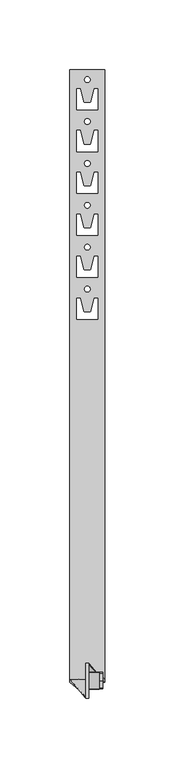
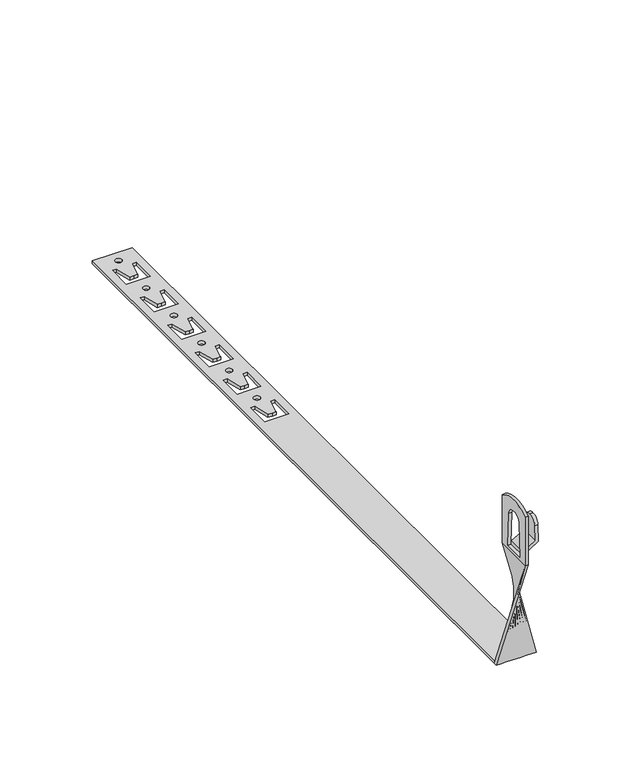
"""IFC4 building model written with IfcOpenShell, lengths in millimetres: proxy geometry, КНС_ДержательСкрученныйПодЧерепицу_DKC : ND2208CU_Медь_450 мм."""

import ifcopenshell
import ifcopenshell.guid

model = None  # the IFC model being written
_history = None  # IfcOwnerHistory: only IFC2X3 demands one
_inside = {}  # id of a spatial element -> (the spatial element, [elements in it])
_under = {}  # id of a project, library or spatial element -> (it, [spatial elements below it])
_declared = {}  # id of a project -> (the project, [libraries it declares])
_typed = {}  # id of a type object -> (the type object, [elements of that type])
_made_of = {}  # id of a material, layer set ... -> (it, [elements and type objects made of it])


def new_model(schema):
    """Start an empty IFC model of exactly this schema.

    Asked for "IFC4X3", IfcOpenShell would pick the latest addendum, in which some entities
    have other attributes; the version numbers below select the first issue.
    IFC2X3 requires an IfcOwnerHistory on every rooted entity: one is made here for all.
    """
    global model, _history
    if schema == "IFC4X3":
        model = ifcopenshell.file(schema_version=(4, 3, 0, 0))
    else:
        model = ifcopenshell.file(schema=schema)
    _inside.clear()
    _under.clear()
    _declared.clear()
    _typed.clear()
    _made_of.clear()
    _history = None
    if model.schema == "IFC2X3":
        org = make("IfcOrganization", Name="unknown")
        user = make(
            "IfcPersonAndOrganization",
            ThePerson=make("IfcPerson", FamilyName="unknown"),
            TheOrganization=org,
        )
        app = make(
            "IfcApplication",
            ApplicationDeveloper=org,
            Version="unknown",
            ApplicationFullName="unknown",
            ApplicationIdentifier="unknown",
        )
        _history = make(
            "IfcOwnerHistory",
            OwningUser=user,
            OwningApplication=app,
            ChangeAction="ADDED",
            CreationDate=0,
        )
    return model


def make(cls, **values):
    """One entity of the class cls with the attributes given. An attribute that is None is left unset."""
    return model.create_entity(
        cls, **{name: value for name, value in values.items() if value is not None}
    )


def rooted(cls, **values):
    """An entity with a GlobalId (a new one), such as an element, a storey or a relation."""
    return make(cls, GlobalId=ifcopenshell.guid.new(), OwnerHistory=_history, **values)


def si_unit(unit_type, name, prefix=None):
    """IfcSIUnit, for example si_unit("LENGTHUNIT", "METRE", prefix="MILLI")."""
    return make("IfcSIUnit", UnitType=unit_type, Prefix=prefix, Name=name)


def assignment(units):
    """IfcUnitAssignment: the units of a project."""
    return None if units is None else make("IfcUnitAssignment", Units=units)


def point(xyz):
    """IfcCartesianPoint."""
    return None if xyz is None else make("IfcCartesianPoint", Coordinates=xyz)


def direction(xyz):
    """IfcDirection."""
    return None if xyz is None else make("IfcDirection", DirectionRatios=xyz)


def frame(location, z_axis=None, x_axis=None):
    """IfcAxis2Placement3D, a coordinate frame: its origin and axes. An axis left out is left unset."""
    return make(
        "IfcAxis2Placement3D",
        Location=point(location),
        Axis=direction(z_axis),
        RefDirection=direction(x_axis),
    )


def frame_2d(location, x_axis=None):
    """IfcAxis2Placement2D, a coordinate frame in the plane: its origin and x axis."""
    return make(
        "IfcAxis2Placement2D", Location=point(location), RefDirection=direction(x_axis)
    )


def origin():
    """The frame at (0, 0, 0) with its axes left unset."""
    return frame((0.0, 0.0, 0.0))


def origin_with_axes():
    """The frame at (0, 0, 0) with the z axis (0, 0, 1) and the x axis (1, 0, 0) written out."""
    return frame((0.0, 0.0, 0.0), z_axis=(0.0, 0.0, 1.0), x_axis=(1.0, 0.0, 0.0))


def place(relative_to, where):
    """IfcLocalPlacement: puts the frame where relative to a parent placement (None: the world)."""
    return make(
        "IfcLocalPlacement", PlacementRelTo=relative_to, RelativePlacement=where
    )


def context(
    kind, dimensions, precision=None, world=None, true_north=None, identifier=None
):
    """IfcGeometricRepresentationContext, for example the 3D "Model" context."""
    return make(
        "IfcGeometricRepresentationContext",
        ContextIdentifier=identifier,
        ContextType=kind,
        CoordinateSpaceDimension=dimensions,
        Precision=precision,
        WorldCoordinateSystem=world,
        TrueNorth=true_north,
    )


def project(units=None, contexts=None):
    """IfcProject with its units and contexts."""
    return rooted(
        "IfcProject",
        Name="project",
        RepresentationContexts=contexts,
        UnitsInContext=assignment(units),
    )


def spatial(cls, under=None, at=None, **own):
    """A site, building, storey or space (cls), placed at a placement, below another one or the project."""
    s = rooted(cls, ObjectPlacement=at, **own)
    if under is not None:
        _under.setdefault(under.id(), (under, []))[1].append(s)
    return s


def polyline(points):
    """IfcPolyline through the points."""
    return make("IfcPolyline", Points=[point(p) for p in points])


def circle_curve(where, radius):
    """IfcCircle in the frame where."""
    return make("IfcCircle", Position=where, Radius=radius)


def trimmed(basis, trim1, trim2, sense, master):
    """IfcTrimmedCurve: the piece of a basis curve between two trims."""
    return make(
        "IfcTrimmedCurve",
        BasisCurve=basis,
        Trim1=trim1,
        Trim2=trim2,
        SenseAgreement=sense,
        MasterRepresentation=master,
    )


def segment(curve, same_sense, transition):
    """IfcCompositeCurveSegment."""
    return make(
        "IfcCompositeCurveSegment",
        Transition=transition,
        SameSense=same_sense,
        ParentCurve=curve,
    )


def composite_curve(segments, self_intersect=None):
    """IfcCompositeCurve: segments joined end to end."""
    return make("IfcCompositeCurve", Segments=segments, SelfIntersect=self_intersect)


def outline(outer, holes=None, kind="AREA"):
    """IfcArbitraryClosedProfileDef: a profile drawn as a closed curve; with holes, ...WithVoids."""
    if holes is None:
        return make("IfcArbitraryClosedProfileDef", ProfileType=kind, OuterCurve=outer)
    return make(
        "IfcArbitraryProfileDefWithVoids",
        ProfileType=kind,
        OuterCurve=outer,
        InnerCurves=holes,
    )


def extrude(swept, where, along, depth):
    """IfcExtrudedAreaSolid: the profile swept, set in the frame where, extruded along a direction by depth."""
    return make(
        "IfcExtrudedAreaSolid",
        SweptArea=swept,
        Position=where,
        ExtrudedDirection=direction(along),
        Depth=depth,
    )


def shape(context_of_items, identifier, shape_type, items):
    """IfcShapeRepresentation: the items that make up one representation, for example the "Body"."""
    return make(
        "IfcShapeRepresentation",
        ContextOfItems=context_of_items,
        RepresentationIdentifier=identifier,
        RepresentationType=shape_type,
        Items=items,
    )


def source(mapping_origin, context_of_items, identifier, shape_type, items):
    """IfcRepresentationMap: a shape defined once, which mapped items show again and again."""
    return make(
        "IfcRepresentationMap",
        MappingOrigin=mapping_origin,
        MappedRepresentation=shape(context_of_items, identifier, shape_type, items),
    )


def transform(
    local_origin,
    x_axis=None,
    y_axis=None,
    z_axis=None,
    scale=None,
    scale2=None,
    scale3=None,
    uniform=True,
):
    """IfcCartesianTransformationOperator3D, or its non-uniform kind. x_axis, y_axis, z_axis: its Axis1, 2, 3."""
    if uniform:
        return make(
            "IfcCartesianTransformationOperator3D",
            Axis1=direction(x_axis),
            Axis2=direction(y_axis),
            LocalOrigin=point(local_origin),
            Scale=scale,
            Axis3=direction(z_axis),
        )
    return make(
        "IfcCartesianTransformationOperator3DnonUniform",
        Axis1=direction(x_axis),
        Axis2=direction(y_axis),
        LocalOrigin=point(local_origin),
        Scale=scale,
        Axis3=direction(z_axis),
        Scale2=scale2,
        Scale3=scale3,
    )


def mapped(mapping_source, mapping_target):
    """IfcMappedItem: shows the shape of a source again, moved by a transform."""
    return make(
        "IfcMappedItem", MappingSource=mapping_source, MappingTarget=mapping_target
    )


def made_of(thing, what):
    """Note that an element or type object is made of a material, layer set ...; save() writes the relation."""
    if what is not None:
        _made_of.setdefault(what.id(), (what, []))[1].append(thing)
    return thing


def element(
    cls,
    number,
    at=None,
    inside=None,
    cuts=None,
    type_object=None,
    material=None,
    context=None,
    identifier="Body",
    shape_type=None,
    held_by="IfcProductDefinitionShape",
    body=None,
    shapes=None,
    **own,
):
    """One element of the class cls, such as IfcWall. Its Tag is "e" and its number.

    at: its placement. inside: the storey or other place that contains it. cuts: it is an
    opening in that element (IfcRelVoidsElement). A single representation is given by context,
    identifier, shape_type and body (its items); several are given by shapes. held_by: the class
    of the entity that holds the representations. save() writes the other relations.
    """
    e = rooted(cls, Tag="e%d" % number, ObjectPlacement=at, **own)
    if body is not None:
        shapes = [shape(context, identifier, shape_type, body)]
    if shapes is not None:
        e.Representation = make(held_by, Representations=shapes)
    if inside is not None:
        _inside.setdefault(inside.id(), (inside, []))[1].append(e)
    if cuts is not None:
        rooted(
            "IfcRelVoidsElement", RelatingBuildingElement=cuts, RelatedOpeningElement=e
        )
    if type_object is not None:
        _typed.setdefault(type_object.id(), (type_object, []))[1].append(e)
    return made_of(e, material)


def aggregate(whole, parts):
    """IfcRelAggregates: a whole, such as a stair, and the parts it consists of."""
    return rooted("IfcRelAggregates", RelatingObject=whole, RelatedObjects=parts)


def save(model, path):
    """Write the relations noted so far, then the file.

    IfcRelAggregates (storeys below a building ...), IfcRelContainedInSpatialStructure (elements
    in a storey), IfcRelDefinesByType, IfcRelAssociatesMaterial and IfcRelDeclares: one each for
    every whole, place, type object, material and project.
    """
    for whole, parts in _under.values():
        aggregate(whole, parts)
    for where, things in _inside.values():
        rooted(
            "IfcRelContainedInSpatialStructure",
            RelatedElements=things,
            RelatingStructure=where,
        )
    for kind, things in _typed.values():
        rooted("IfcRelDefinesByType", RelatedObjects=things, RelatingType=kind)
    for what, things in _made_of.values():
        rooted("IfcRelAssociatesMaterial", RelatedObjects=things, RelatingMaterial=what)
    for by, libraries in _declared.values():
        rooted("IfcRelDeclares", RelatingContext=by, RelatedDefinitions=libraries)
    model.write(path)


def plane_surface(at):
    """IfcPlane: the flat surface through the origin of the frame at, square to its z axis."""
    return make("IfcPlane", Position=at)


def cylinder_surface(at, radius):
    """IfcCylindricalSurface: all points at the distance radius from the z axis of the frame at."""
    return make("IfcCylindricalSurface", Position=at, Radius=radius)


def revolved_surface(curve, axis_point, axis_direction):
    """IfcSurfaceOfRevolution: the curve turned about the line through axis_point along axis_direction."""
    return make(
        "IfcSurfaceOfRevolution",
        SweptCurve=make("IfcArbitraryOpenProfileDef", ProfileType="CURVE", Curve=curve),
        AxisPosition=make("IfcAxis1Placement", Location=point(axis_point), Axis=direction(axis_direction)),
    )


def spline_surface(u_degree, v_degree, points, u_multiplicities, v_multiplicities, u_knots, v_knots, weights=None):
    """IfcBSplineSurfaceWithKnots; with weights, IfcRationalBSplineSurfaceWithKnots. points: one row for each step in u."""
    own = dict(
        UDegree=u_degree,
        VDegree=v_degree,
        ControlPointsList=[[point(p) for p in row] for row in points],
        SurfaceForm="UNSPECIFIED",
        UClosed=False,
        VClosed=False,
        SelfIntersect=False,
        UMultiplicities=u_multiplicities,
        VMultiplicities=v_multiplicities,
        UKnots=u_knots,
        VKnots=v_knots,
        KnotSpec="UNSPECIFIED",
    )
    if weights is None:
        return make("IfcBSplineSurfaceWithKnots", **own)
    return make("IfcRationalBSplineSurfaceWithKnots", WeightsData=weights, **own)


def advanced_brep(points, edges, surfaces, faces):
    """IfcAdvancedBrep: a solid bounded by faces that lie on surfaces and meet in shared edges.

    An edge is (start, end): straight between two places in points (the first is 0);
    or (start, end, curve); or (start, end, curve, False) where it runs against its curve.
    A face is (place in surfaces, loops), or (place, loops, False) where it looks against
    its surface's normal. A loop lists edges by number (the first is 1), with a minus sign
    where the edge is run from its end to its start. The first loop is the outer one.
    """
    corners = [point(p) for p in points]
    vertices = [make("IfcVertexPoint", VertexGeometry=c) for c in corners]
    made = []
    for start, end, *more in edges:
        made.append(
            make(
                "IfcEdgeCurve",
                EdgeStart=vertices[start],
                EdgeEnd=vertices[end],
                EdgeGeometry=more[0] if more else make("IfcPolyline", Points=[corners[start], corners[end]]),
                SameSense=more[1] if len(more) > 1 else True,
            )
        )
    hull = []
    for where, loops, *sense in faces:
        bounds = []
        for j, loop in enumerate(loops):
            ring = [make("IfcOrientedEdge", EdgeElement=made[abs(k) - 1], Orientation=k > 0) for k in loop]
            bounds.append(
                make(
                    "IfcFaceOuterBound" if j == 0 else "IfcFaceBound",
                    Bound=make("IfcEdgeLoop", EdgeList=ring),
                    Orientation=True,
                )
            )
        hull.append(make("IfcAdvancedFace", Bounds=bounds, FaceSurface=surfaces[where], SameSense=sense[0] if sense else True))
    return make("IfcAdvancedBrep", Outer=make("IfcClosedShell", CfsFaces=hull))


def security_devices_5349010f(model_context):
    return source(origin(), model_context, "Body", "SolidModel", [
        advanced_brep(
        [(1.0, 0.0, 100.874537), (1.0, 0.0, 69.0), (1.0, 25.0, 69.0), (1.0, 25.0, 100.874537), (1.0, 7.1354712, 92.6660817), (1.0, 12.5, 97.1674559), (1.0, 17.8645288, 92.6660817), (1.0, 19.0, 71.0), (1.0, 6.0, 71.0), (-1.0, 0.0, 100.874537), (-1.0, 25.0, 100.874537), (-1.0, 25.0, 69.0), (-1.0, 0.0, 69.0), (-1.0, 7.1354712, 92.6660817), (-1.0, 6.0, 71.0), (-1.0, 19.0, 71.0), (-1.0, 17.8645288, 92.6660817), (-1.0, 12.5, 97.1674559), (12.5, 13.5, 0.0), (12.5, 11.5, 0.0), (-12.5, 11.5, 0.0), (-12.5, 13.5, 0.0)],
        [
            (0, 1),
            (1, 2),
            (2, 3),
            (3, 0, circle_curve(frame((1.0, 12.5, 84.0), z_axis=(1.0, 0.0, 0.0), x_axis=(0.0, 1.0, 0.0)), 21.0)),
            (4, 5, circle_curve(frame((1.0, 11.9165352, 92.4155168), z_axis=(-1.0, 0.0, 0.0), x_axis=(0.0, 1.0, 0.0)), 4.7876253)),
            (5, 6, circle_curve(frame((1.0, 13.0834648, 92.4155168), z_axis=(-1.0, 0.0, 0.0), x_axis=(0.0, 1.0, 0.0)), 4.7876253)),
            (6, 7),
            (7, 8),
            (8, 4),
            (9, 10, circle_curve(frame((-1.0, 12.5, 84.0), z_axis=(-1.0, 0.0, 0.0), x_axis=(0.0, 1.0, 0.0)), 21.0)),
            (10, 11),
            (11, 12),
            (12, 9),
            (13, 14),
            (14, 15),
            (15, 16),
            (16, 17, circle_curve(frame((-1.0, 13.0834648, 92.4155168), z_axis=(1.0, 0.0, 0.0), x_axis=(0.0, 1.0, 0.0)), 4.7876253)),
            (17, 13, circle_curve(frame((-1.0, 11.9165352, 92.4155168), z_axis=(1.0, 0.0, 0.0), x_axis=(0.0, 1.0, 0.0)), 4.7876253)),
            (0, 9),
            (12, 1),
            (2, 11),
            (10, 3),
            (4, 13),
            (17, 5),
            (16, 6),
            (15, 7),
            (14, 8),
            (18, 19),
            (19, 20),
            (20, 21),
            (21, 18),
            (21, 12),
            (11, 18),
            (20, 1),
            (2, 19),
        ],
        [
            plane_surface(frame((1.0, 0.0, 65.0), z_axis=(1.0, 0.0, 0.0), x_axis=(0.0, 0.0, -1.0))),
            plane_surface(frame((-1.0, 0.0, 65.0), z_axis=(-1.0, 0.0, 0.0), x_axis=(0.0, 0.0, 1.0))),
            plane_surface(frame((1.0, 0.0, 100.874537), z_axis=(0.0, -1.0, 0.0), x_axis=(-1.0, 0.0, 0.0))),
            plane_surface(frame((1.0, 25.0, 69.0), z_axis=(0.0, 1.0, 0.0), x_axis=(-1.0, 0.0, 0.0))),
            cylinder_surface(frame((-1.0, 12.5, 84.0), z_axis=(1.0, 0.0, 0.0), x_axis=(0.0, 1.0, 0.0)), 21.0),
            revolved_surface(polyline([(-1.0, 16.7041605, 92.4155168), (1.0, 16.7041605, 92.4155168)]), (11.0, 11.9165352, 92.4155168), (-1.0, 0.0, 0.0)),
            revolved_surface(polyline([(-1.0, 17.8710901, 92.4155168), (1.0, 17.8710901, 92.4155168)]), (11.0, 13.0834648, 92.4155168), (-1.0, 0.0, 0.0)),
            plane_surface(frame((1.0, 17.8645288, 92.6660817), z_axis=(0.0, -0.9986295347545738, -0.0523359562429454), x_axis=(-1.0, 0.0, 0.0))),
            plane_surface(frame((1.0, 19.0, 71.0), z_axis=(0.0, 0.0, 1.0), x_axis=(-1.0, 0.0, 0.0))),
            plane_surface(frame((1.0, 6.0, 71.0), z_axis=(0.0, 0.9986295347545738, -0.052335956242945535), x_axis=(-1.0, 0.0, 0.0))),
            plane_surface(frame((0.0, 12.5, 0.0), z_axis=(0.0, 0.0, -1.0), x_axis=(0.0, 1.0, 0.0))),
            spline_surface(1, 1, [[(12.5, 13.5, 0.0), (-1.0, 25.0, 69.0)], [(-12.5, 13.5, 0.0), (-1.0, 0.0, 69.0)]], [2, 2], [2, 2], [0.0, 1.0], [0.0, 1.0]),
            spline_surface(1, 1, [[(-12.5, 13.5, 0.0), (-1.0, 0.0, 69.0)], [(-12.5, 11.5, 0.0), (1.0, 0.0, 69.0)]], [2, 2], [2, 2], [0.0, 1.0], [0.0, 1.0]),
            spline_surface(1, 1, [[(12.5, 11.5, 0.0), (1.0, 25.0, 69.0)], [(12.5, 13.5, 0.0), (-1.0, 25.0, 69.0)]], [2, 2], [2, 2], [0.0, 1.0], [0.0, 1.0]),
            spline_surface(1, 1, [[(-12.5, 11.5, 0.0), (1.0, 0.0, 69.0)], [(12.5, 11.5, 0.0), (1.0, 25.0, 69.0)]], [2, 2], [2, 2], [0.0, 1.0], [0.0, 1.0]),
        ],
        [
            (0, [[1, 2, 3, 4], [5, 6, 7, 8, 9]]),
            (1, [[10, 11, 12, 13], [14, 15, 16, 17, 18]]),
            (2, [[-1, 19, -13, 20]]),
            (3, [[-3, 21, -11, 22]]),
            (4, [[-4, -22, -10, -19]]),
            (5, [[-5, 23, -18, 24]]),
            (6, [[-6, -24, -17, 25]]),
            (7, [[-7, -25, -16, 26]]),
            (8, [[-8, -26, -15, 27]]),
            (9, [[-9, -27, -14, -23]]),
            (10, [[28, 29, 30, 31]]),
            (11, [[-31, 32, -12, 33]]),
            (12, [[-30, 34, -20, -32]]),
            (13, [[-28, -33, -21, 35]]),
            (14, [[-29, -35, -2, -34]]),
        ],
    ),
        advanced_brep(
        [(11.0, 17.8645288, 87.6660817), (11.0, 12.5, 92.1674559), (11.0, 7.1354712, 87.6660817), (11.0, 6.5646154, 76.7735027), (11.0, 18.4353846, 76.7735027), (1.0, 18.7379611, 71.0), (1.0, 6.2620389, 71.0), (1.0, 6.3830695, 73.3094011), (1.0, 18.6169305, 73.3094011), (9.0, 7.1354712, 87.6660817), (9.0, 6.6251306, 77.9282032), (9.0, 18.3748694, 77.9282032), (9.0, 17.8645288, 87.6660817), (9.0, 12.5, 92.1674559)],
        [
            (0, 1, circle_curve(frame((11.0, 13.0834648, 87.4155168), z_axis=(1.0, 0.0, 0.0), x_axis=(0.0, 1.0, 0.0)), 4.7876253)),
            (1, 2, circle_curve(frame((11.0, 11.9165352, 87.4155168), z_axis=(1.0, 0.0, 0.0), x_axis=(0.0, 1.0, 0.0)), 4.7876253)),
            (2, 3),
            (3, 4),
            (4, 0),
            (5, 6),
            (6, 7),
            (7, 8),
            (8, 5),
            (2, 9),
            (9, 10),
            (10, 7),
            (6, 3),
            (4, 5),
            (8, 11),
            (11, 12),
            (12, 0),
            (12, 13, circle_curve(frame((9.0, 13.0834648, 87.4155168), z_axis=(1.0, 0.0, 0.0), x_axis=(0.0, 1.0, 0.0)), 4.7876253)),
            (13, 1),
            (13, 9, circle_curve(frame((9.0, 11.9165352, 87.4155168), z_axis=(1.0, 0.0, 0.0), x_axis=(0.0, 1.0, 0.0)), 4.7876253)),
            (10, 11),
        ],
        [
            plane_surface(frame((11.0, 6.2585459, 70.9333499), z_axis=(1.0, 0.0, 0.0), x_axis=(0.0, -0.05233595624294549, -0.9986295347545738))),
            plane_surface(frame((1.0, 6.2585459, 70.9333499), z_axis=(-1.0, 0.0, 0.0), x_axis=(0.0, 0.05233595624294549, 0.9986295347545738))),
            plane_surface(frame((11.0, 7.1354712, 87.6660817), z_axis=(0.0, -0.9986295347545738, 0.05233595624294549), x_axis=(-1.0, 0.0, 0.0))),
            plane_surface(frame((11.0, 18.7379611, 71.0), z_axis=(0.0, 0.9986295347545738, 0.05233595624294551), x_axis=(-1.0, 0.0, 0.0))),
            cylinder_surface(frame((1.0, 13.0834648, 87.4155168), z_axis=(1.0, 0.0, 0.0), x_axis=(0.0, 1.0, 0.0)), 4.7876253),
            cylinder_surface(frame((1.0, 11.9165352, 87.4155168), z_axis=(1.0, 0.0, 0.0), x_axis=(0.0, 1.0, 0.0)), 4.7876253),
            plane_surface(frame((1.0, 25.0, 71.0), z_axis=(0.500000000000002, 0.0, -0.8660254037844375), x_axis=(0.0, -1.0, 0.0))),
            plane_surface(frame((9.0, 25.0, 77.9282032), z_axis=(-0.5000000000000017, 0.0, 0.8660254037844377), x_axis=(0.0, -1.0, 0.0))),
            plane_surface(frame((9.0, 25.0, 102.9372685), z_axis=(-1.0, 0.0, 0.0), x_axis=(0.0, -1.0, 0.0))),
        ],
        [
            (0, [[1, 2, 3, 4, 5]]),
            (1, [[6, 7, 8, 9]]),
            (2, [[-3, 10, 11, 12, -7, 13]]),
            (3, [[-5, 14, -9, 15, 16, 17]]),
            (4, [[-1, -17, 18, 19]]),
            (5, [[-2, -19, 20, -10]]),
            (6, [[-4, -13, -6, -14]]),
            (7, [[21, -15, -8, -12]]),
            (8, [[-21, -11, -20, -18, -16]]),
        ],
    ),
        extrude(outline(polyline([(12.5, 450.0), (12.5, 13.5), (-12.5, 13.5), (-12.5, 450.0), (12.5, 450.0)]), holes=[composite_curve([segment(trimmed(circle_curve(frame_2d((0.0, 442.9763791)), 2.0), [point((-2.0, 442.9763791))], [point((2.0, 442.9763791))], True, "CARTESIAN"), True, "CONTINUOUS"), segment(trimmed(circle_curve(frame_2d((0.0, 442.9763791)), 2.0), [point((2.0, 442.9763791))], [point((-2.0, 442.9763791))], True, "CARTESIAN"), True, "CONTINUOUS")], self_intersect=False), polyline([(-7.5, 421.5), (0.0, 421.5), (7.5, 421.5), (7.5, 436.5981413), (5.0452497, 436.5981413), (2.5276553, 426.5), (0.0, 426.5), (-2.5276553, 426.5), (-5.0452497, 436.5981413), (-7.5, 436.5981413), (-7.5, 421.5)]), composite_curve([segment(trimmed(circle_curve(frame_2d((0.0, 412.9763791)), 2.0), [point((-2.0, 412.9763791))], [point((2.0, 412.9763791))], True, "CARTESIAN"), True, "CONTINUOUS"), segment(trimmed(circle_curve(frame_2d((0.0, 412.9763791)), 2.0), [point((2.0, 412.9763791))], [point((-2.0, 412.9763791))], True, "CARTESIAN"), True, "CONTINUOUS")], self_intersect=False), polyline([(-7.5, 391.5), (0.0, 391.5), (7.5, 391.5), (7.5, 406.5981413), (5.0452497, 406.5981413), (2.5276553, 396.5), (0.0, 396.5), (-2.5276553, 396.5), (-5.0452497, 406.5981413), (-7.5, 406.5981413), (-7.5, 391.5)]), composite_curve([segment(trimmed(circle_curve(frame_2d((0.0, 382.9763791)), 2.0), [point((-2.0, 382.9763791))], [point((2.0, 382.9763791))], True, "CARTESIAN"), True, "CONTINUOUS"), segment(trimmed(circle_curve(frame_2d((0.0, 382.9763791)), 2.0), [point((2.0, 382.9763791))], [point((-2.0, 382.9763791))], True, "CARTESIAN"), True, "CONTINUOUS")], self_intersect=False), polyline([(-7.5, 361.5), (0.0, 361.5), (7.5, 361.5), (7.5, 376.5981413), (5.0452497, 376.5981413), (2.5276553, 366.5), (0.0, 366.5), (-2.5276553, 366.5), (-5.0452497, 376.5981413), (-7.5, 376.5981413), (-7.5, 361.5)]), composite_curve([segment(trimmed(circle_curve(frame_2d((0.0, 352.9763791)), 2.0), [point((-2.0, 352.9763791))], [point((2.0, 352.9763791))], True, "CARTESIAN"), True, "CONTINUOUS"), segment(trimmed(circle_curve(frame_2d((0.0, 352.9763791)), 2.0), [point((2.0, 352.9763791))], [point((-2.0, 352.9763791))], True, "CARTESIAN"), True, "CONTINUOUS")], self_intersect=False), polyline([(-7.5, 331.5), (0.0, 331.5), (7.5, 331.5), (7.5, 346.5981413), (5.0452497, 346.5981413), (2.5276553, 336.5), (0.0, 336.5), (-2.5276553, 336.5), (-5.0452497, 346.5981413), (-7.5, 346.5981413), (-7.5, 331.5)]), composite_curve([segment(trimmed(circle_curve(frame_2d((0.0, 322.9763791)), 2.0), [point((-2.0, 322.9763791))], [point((2.0, 322.9763791))], True, "CARTESIAN"), True, "CONTINUOUS"), segment(trimmed(circle_curve(frame_2d((0.0, 322.9763791)), 2.0), [point((2.0, 322.9763791))], [point((-2.0, 322.9763791))], True, "CARTESIAN"), True, "CONTINUOUS")], self_intersect=False), polyline([(-7.5, 301.5), (0.0, 301.5), (7.5, 301.5), (7.5, 316.5981413), (5.0452497, 316.5981413), (2.5276553, 306.5), (0.0, 306.5), (-2.5276553, 306.5), (-5.0452497, 316.5981413), (-7.5, 316.5981413), (-7.5, 301.5)]), composite_curve([segment(trimmed(circle_curve(frame_2d((0.0, 292.9763791)), 2.0), [point((-2.0, 292.9763791))], [point((2.0, 292.9763791))], True, "CARTESIAN"), True, "CONTINUOUS"), segment(trimmed(circle_curve(frame_2d((0.0, 292.9763791)), 2.0), [point((2.0, 292.9763791))], [point((-2.0, 292.9763791))], True, "CARTESIAN"), True, "CONTINUOUS")], self_intersect=False), polyline([(-7.5, 271.5), (0.0, 271.5), (7.5, 271.5), (7.5, 286.5981413), (5.0452497, 286.5981413), (2.5276553, 276.5), (0.0, 276.5), (-2.5276553, 276.5), (-5.0452497, 286.5981413), (-7.5, 286.5981413), (-7.5, 271.5)])]), origin_with_axes(), (0.0, 0.0, 1.0), 2.0),
    ])


if __name__ == "__main__":
    model = new_model("IFC4")
    model_context = context("Model", 3, world=origin())
    ifc_project = project(units=[si_unit("LENGTHUNIT", "METRE", prefix="MILLI")], contexts=[model_context])
    site = spatial("IfcSite", under=ifc_project)
    building = spatial("IfcBuilding", under=site)
    placement = place(None, origin())
    security_devices_shape = security_devices_5349010f(model_context)
    element("IfcBuildingElementProxy", 1, Name="КНС_ДержательСкрученныйПодЧерепицу_DKC : ND2208CU_Медь_450 мм", ObjectType="КНС_ДержательСкрученныйПодЧерепицу_DKC : ND2208CU_Медь_450 мм", at=placement, inside=building, context=model_context, shape_type="MappedRepresentation", body=[
        mapped(security_devices_shape, transform((0.0, 0.0, 0.0), x_axis=(1.0, 0.0, 0.0), y_axis=(0.0, 1.0, 0.0), z_axis=(0.0, 0.0, 1.0))),
    ])
    save(model, "model.ifc")
